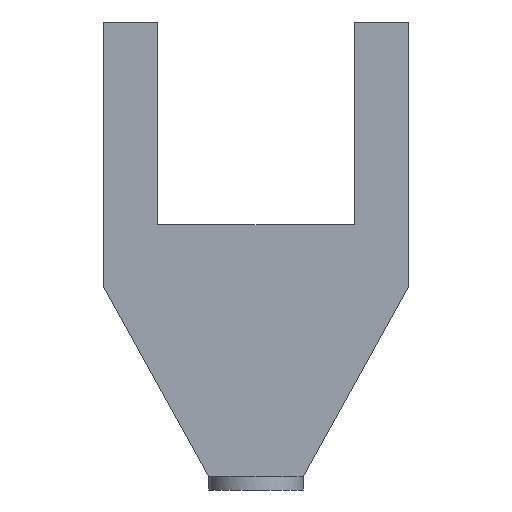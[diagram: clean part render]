
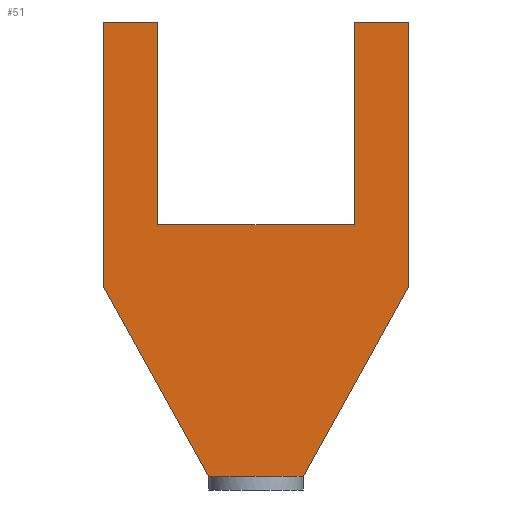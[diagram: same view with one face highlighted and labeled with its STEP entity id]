
A CAD part, front view. The second image highlights one B-rep face of the part: STEP entity #51.
In plain terms, the highlighted planar face has unit normal (0, -1, 0) as drawn and (0, 1, 0) by its records, which use the part's own axes.
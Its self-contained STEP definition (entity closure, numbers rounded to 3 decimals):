
#4 = DIRECTION ( 'NONE',  ( 0., 1., 0. ) ) ;
#6 = EDGE_CURVE ( 'NONE', #505, #191, #508, .T. ) ;
#7 = DIRECTION ( 'NONE',  ( 0., 0., -1. ) ) ;
#11 = CARTESIAN_POINT ( 'NONE',  ( 35., 15., 10. ) ) ;
#12 = VECTOR ( 'NONE', #129, 1000. ) ;
#16 = VECTOR ( 'NONE', #473, 1000. ) ;
#34 = EDGE_CURVE ( 'NONE', #345, #470, #87, .T. ) ;
#36 = DIRECTION ( 'NONE',  ( 0.484, 0., -0.875 ) ) ;
#39 = EDGE_CURVE ( 'NONE', #417, #345, #50, .T. ) ;
#50 = LINE ( 'NONE', #441, #439 ) ;
#51 = ADVANCED_FACE ( 'NONE', ( #227 ), #91, .T. ) ;
#75 = EDGE_CURVE ( 'NONE', #327, #505, #397, .T. ) ;
#80 = DIRECTION ( 'NONE',  ( 0., 0., -1. ) ) ;
#81 = LINE ( 'NONE', #305, #12 ) ;
#87 = LINE ( 'NONE', #304, #109 ) ;
#91 = PLANE ( 'NONE',  #237 ) ;
#106 = LINE ( 'NONE', #462, #356 ) ;
#109 = VECTOR ( 'NONE', #438, 1000. ) ;
#112 = CARTESIAN_POINT ( 'NONE',  ( -112.5, 15., 150. ) ) ;
#118 = ORIENTED_EDGE ( 'NONE', *, *, #34, .F. ) ;
#125 = CARTESIAN_POINT ( 'NONE',  ( -72.5, 15., 196. ) ) ;
#127 = VERTEX_POINT ( 'NONE', #133 ) ;
#129 = DIRECTION ( 'NONE',  ( 1., 0., 0. ) ) ;
#130 = CARTESIAN_POINT ( 'NONE',  ( 0., 15., 10. ) ) ;
#132 = VERTEX_POINT ( 'NONE', #357 ) ;
#133 = CARTESIAN_POINT ( 'NONE',  ( 35., 15., 10. ) ) ;
#137 = EDGE_CURVE ( 'NONE', #191, #325, #262, .T. ) ;
#138 = VERTEX_POINT ( 'NONE', #481 ) ;
#148 = CARTESIAN_POINT ( 'NONE',  ( -35., 15., 10. ) ) ;
#151 = ORIENTED_EDGE ( 'NONE', *, *, #387, .F. ) ;
#161 = CARTESIAN_POINT ( 'NONE',  ( 72.5, 15., 196. ) ) ;
#165 = CARTESIAN_POINT ( 'NONE',  ( -72.5, 15., 346. ) ) ;
#167 = LINE ( 'NONE', #165, #287 ) ;
#170 = VECTOR ( 'NONE', #245, 1000. ) ;
#187 = EDGE_CURVE ( 'NONE', #127, #138, #403, .T. ) ;
#188 = DIRECTION ( 'NONE',  ( 1., 0., 0. ) ) ;
#191 = VERTEX_POINT ( 'NONE', #148 ) ;
#193 = VECTOR ( 'NONE', #440, 1000. ) ;
#208 = CARTESIAN_POINT ( 'NONE',  ( 112.5, 15., 150. ) ) ;
#217 = ORIENTED_EDGE ( 'NONE', *, *, #302, .F. ) ;
#222 = CARTESIAN_POINT ( 'NONE',  ( -112.5, 15., 150. ) ) ;
#225 = CARTESIAN_POINT ( 'NONE',  ( -112.5, 15., 346. ) ) ;
#226 = LINE ( 'NONE', #125, #16 ) ;
#227 = FACE_OUTER_BOUND ( 'NONE', #561, .T. ) ;
#231 = DIRECTION ( 'NONE',  ( 0., 0., -1. ) ) ;
#237 = AXIS2_PLACEMENT_3D ( 'NONE', #478, #4, #80 ) ;
#245 = DIRECTION ( 'NONE',  ( 0., 0., 1. ) ) ;
#246 = DIRECTION ( 'NONE',  ( -1., 0., 0. ) ) ;
#251 = DIRECTION ( 'NONE',  ( -1., 0., 0. ) ) ;
#253 = CARTESIAN_POINT ( 'NONE',  ( 72.5, 15., 346. ) ) ;
#262 = LINE ( 'NONE', #130, #448 ) ;
#287 = VECTOR ( 'NONE', #251, 1000. ) ;
#291 = LINE ( 'NONE', #208, #170 ) ;
#302 = EDGE_CURVE ( 'NONE', #374, #417, #106, .T. ) ;
#304 = CARTESIAN_POINT ( 'NONE',  ( 72.5, 15., 196. ) ) ;
#305 = CARTESIAN_POINT ( 'NONE',  ( 0., 15., 10. ) ) ;
#318 = VECTOR ( 'NONE', #367, 1000. ) ;
#325 = VERTEX_POINT ( 'NONE', #419 ) ;
#327 = VERTEX_POINT ( 'NONE', #552 ) ;
#335 = CARTESIAN_POINT ( 'NONE',  ( 112.5, 15., 346. ) ) ;
#339 = VERTEX_POINT ( 'NONE', #515 ) ;
#342 = ORIENTED_EDGE ( 'NONE', *, *, #544, .F. ) ;
#345 = VERTEX_POINT ( 'NONE', #161 ) ;
#356 = VECTOR ( 'NONE', #246, 1000. ) ;
#357 = CARTESIAN_POINT ( 'NONE',  ( -72.5, 15., 346. ) ) ;
#367 = DIRECTION ( 'NONE',  ( 0.484, 0., 0.875 ) ) ;
#370 = ORIENTED_EDGE ( 'NONE', *, *, #490, .F. ) ;
#374 = VERTEX_POINT ( 'NONE', #335 ) ;
#381 = ORIENTED_EDGE ( 'NONE', *, *, #445, .F. ) ;
#387 = EDGE_CURVE ( 'NONE', #132, #327, #167, .T. ) ;
#397 = LINE ( 'NONE', #225, #498 ) ;
#403 = LINE ( 'NONE', #11, #318 ) ;
#417 = VERTEX_POINT ( 'NONE', #253 ) ;
#418 = CARTESIAN_POINT ( 'NONE',  ( -72.5, 15., 196. ) ) ;
#419 = CARTESIAN_POINT ( 'NONE',  ( -31.623, 15., 10. ) ) ;
#438 = DIRECTION ( 'NONE',  ( -1., 0., 0. ) ) ;
#439 = VECTOR ( 'NONE', #231, 1000. ) ;
#440 = DIRECTION ( 'NONE',  ( 1., 0., 0. ) ) ;
#441 = CARTESIAN_POINT ( 'NONE',  ( 72.5, 15., 346. ) ) ;
#443 = ORIENTED_EDGE ( 'NONE', *, *, #187, .F. ) ;
#445 = EDGE_CURVE ( 'NONE', #138, #374, #291, .T. ) ;
#448 = VECTOR ( 'NONE', #188, 1000. ) ;
#454 = VECTOR ( 'NONE', #36, 1000. ) ;
#462 = CARTESIAN_POINT ( 'NONE',  ( 112.5, 15., 346. ) ) ;
#470 = VERTEX_POINT ( 'NONE', #418 ) ;
#473 = DIRECTION ( 'NONE',  ( 0., 0., 1. ) ) ;
#478 = CARTESIAN_POINT ( 'NONE',  ( 0., 15., 0. ) ) ;
#481 = CARTESIAN_POINT ( 'NONE',  ( 112.5, 15., 150. ) ) ;
#484 = ORIENTED_EDGE ( 'NONE', *, *, #75, .F. ) ;
#490 = EDGE_CURVE ( 'NONE', #470, #132, #226, .T. ) ;
#498 = VECTOR ( 'NONE', #7, 1000. ) ;
#505 = VERTEX_POINT ( 'NONE', #222 ) ;
#508 = LINE ( 'NONE', #112, #454 ) ;
#515 = CARTESIAN_POINT ( 'NONE',  ( 31.623, 15., 10. ) ) ;
#517 = ORIENTED_EDGE ( 'NONE', *, *, #137, .F. ) ;
#522 = ORIENTED_EDGE ( 'NONE', *, *, #532, .F. ) ;
#525 = LINE ( 'NONE', #528, #193 ) ;
#528 = CARTESIAN_POINT ( 'NONE',  ( 0., 15., 10. ) ) ;
#532 = EDGE_CURVE ( 'NONE', #339, #127, #525, .T. ) ;
#544 = EDGE_CURVE ( 'NONE', #325, #339, #81, .T. ) ;
#547 = ORIENTED_EDGE ( 'NONE', *, *, #6, .F. ) ;
#552 = CARTESIAN_POINT ( 'NONE',  ( -112.5, 15., 346. ) ) ;
#561 = EDGE_LOOP ( 'NONE', ( #564, #217, #381, #443, #522, #342, #517, #547, #484, #151, #370, #118 ) ) ;
#564 = ORIENTED_EDGE ( 'NONE', *, *, #39, .F. ) ;
